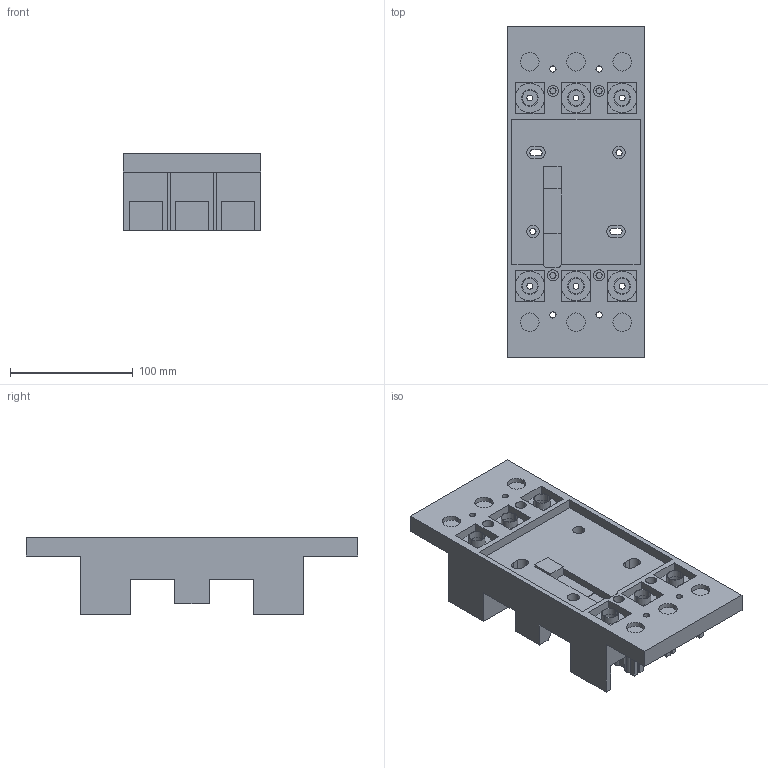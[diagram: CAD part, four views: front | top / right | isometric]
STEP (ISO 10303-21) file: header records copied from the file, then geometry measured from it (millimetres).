
FILE_DESCRIPTION (( 'STEP AP214' ), '1' );
FILE_NAME ('ÂÀ57-35 Ïàíåëü âòû÷íàÿ.STEP', '2023-07-14T07:48:44', ( '' ), ( '' ), 'SwSTEP 2.0', 'SolidWorks 2018', '' );
FILE_SCHEMA (( 'AUTOMOTIVE_DESIGN' ));
Length unit declared in the file: millimetre
Products named in the file (1): ÂÀ57-35 Ïàíåëü âòû÷íàÿ
Bounding box: 112.2 x 269.6 x 62.5 mm (x, y, z)
Volume: 766226.4 mm3; surface area: 165855 mm2
Topology: 1 solids, 1 shells, 379 faces, 1004 edges, 668 vertices
Faces by surface type: plane 247, cylinder 132
Entity records: 11840 total; most frequent: CARTESIAN_POINT 2052, DIRECTION 2028, ORIENTED_EDGE 2008, EDGE_CURVE 1004, LINE 740, VECTOR 740, VERTEX_POINT 668, AXIS2_PLACEMENT_3D 644
